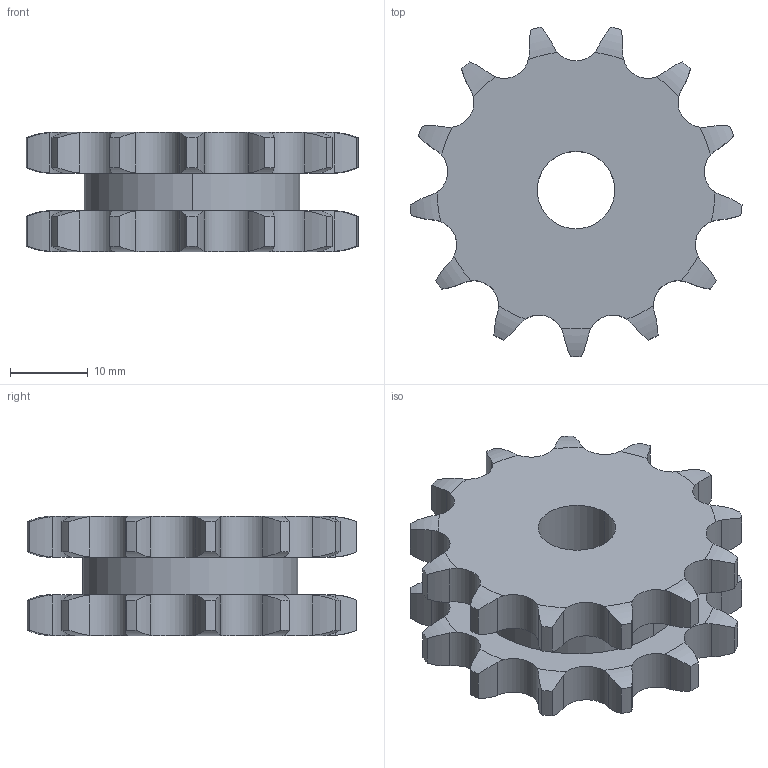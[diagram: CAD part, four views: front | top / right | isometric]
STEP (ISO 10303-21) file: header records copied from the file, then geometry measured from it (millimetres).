
FILE_DESCRIPTION((''),'2;1');
FILE_NAME('500-102-0013_PRT','2021-02-12T',('Brieden'),('Brieden'),'PRO/ENGINEER BY PARAMETRIC TECHNOLOGY CORPORATION, 2010160','PRO/ENGINEER BY PARAMETRIC TECHNOLOGY CORPORATION, 2010160','');
FILE_SCHEMA(('AUTOMOTIVE_DESIGN { 1 0 10303 214 1 1 1 1 }'));
Length unit declared in the file: millimetre
Products named in the file (1): 500-102-0013_PRT
Bounding box: 42.83 x 42.53 x 15.4 mm (x, y, z)
Volume: 13077.9 mm3; surface area: 5727.4 mm2
Topology: 1 solids, 1 shells, 164 faces, 480 edges, 320 vertices
Faces by surface type: cylinder 108, torus 52, plane 4
Entity records: 7698 total; most frequent: CARTESIAN_POINT 2079, ORIENTED_EDGE 960, DIRECTION 764, PRESENTATION_STYLE_ASSIGNMENT 481, STYLED_ITEM 481, CURVE_STYLE 480, EDGE_CURVE 480, AXIS2_PLACEMENT_3D 328
